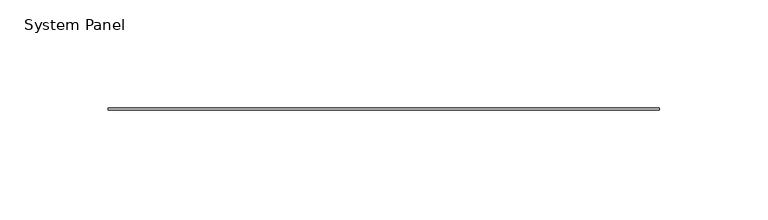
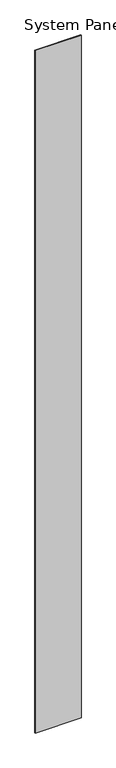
"""IFC4 building model written with IfcOpenShell, lengths in millimetres: plate geometry, System Panel : Stratco_Hiland_Tray."""

from ifc_helpers import new_model, si_unit, origin, origin_with_axes, place, context, project, spatial, polyline, outline, extrude, source, transform, mapped, element, save


def system_panel_5c20f522(model_context):
    return source(origin(), model_context, "Body", "SweptSolid", [
        extrude(outline(polyline([(127.5000002, 2.5), (-127.5000002, 2.5), (-127.5000002, 3.5), (127.5000002, 3.5), (127.5000002, 2.5)])), origin_with_axes(), (0.0, 0.0, 1.0), 4000.0),
    ])


if __name__ == "__main__":
    model = new_model("IFC4")
    model_context = context("Model", 3, world=origin())
    ifc_project = project(units=[si_unit("LENGTHUNIT", "METRE", prefix="MILLI")], contexts=[model_context])
    site = spatial("IfcSite", under=ifc_project)
    building = spatial("IfcBuilding", under=site)
    placement = place(None, origin())
    system_panel_shape = system_panel_5c20f522(model_context)
    element("IfcPlate", 1, ObjectType="System Panel : Stratco_Hiland_Tray", at=placement, inside=building, context=model_context, shape_type="MappedRepresentation", body=[
        mapped(system_panel_shape, transform((0.0, 0.0, 0.0), x_axis=(1.0, 0.0, 0.0), y_axis=(0.0, 1.0, 0.0), z_axis=(0.0, 0.0, 1.0))),
    ])
    save(model, "model.ifc")
